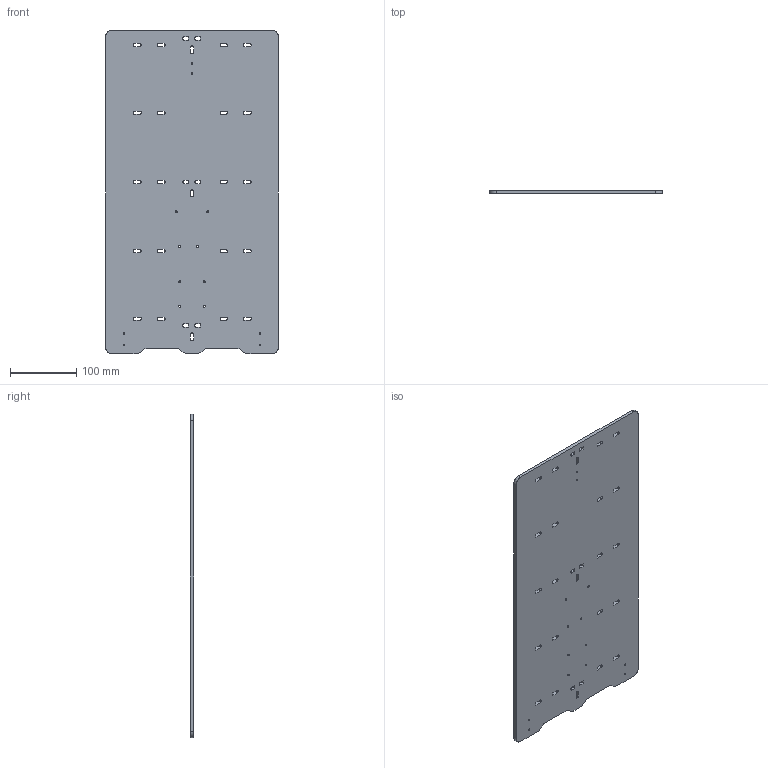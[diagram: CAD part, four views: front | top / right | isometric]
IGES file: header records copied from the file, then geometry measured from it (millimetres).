
Start section: SolidWorks IGES file using analytic representation for surfaces
Global section: file name: C:\Users\fablab-info\Desktop\Miroir cylindro-parabolique\IGS 3D\support miroir.IGS; native system: SolidWorks 2017; preprocessor: SolidWorks 2017; author: fablab-info; date: 190712.155445; units: millimetre
Bounding box: 260 x 5 x 487 mm (x, y, z)
Surface area: 260471.5 mm2 (no closed solid volume)
Topology: 0 solids, 0 shells, 231 faces, 2270 edges, 2270 vertices
Faces by surface type: bspline 159, revolution 72
